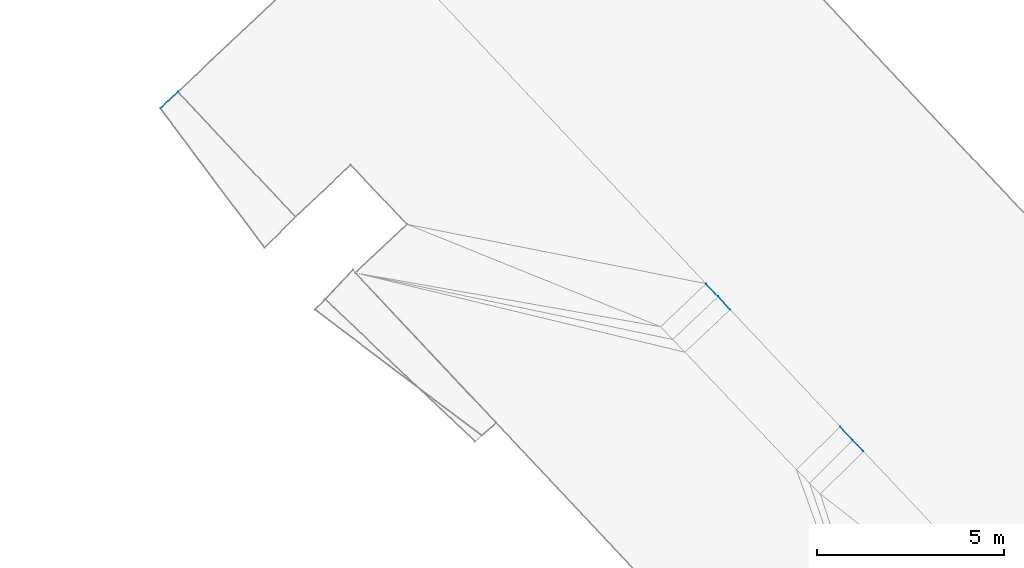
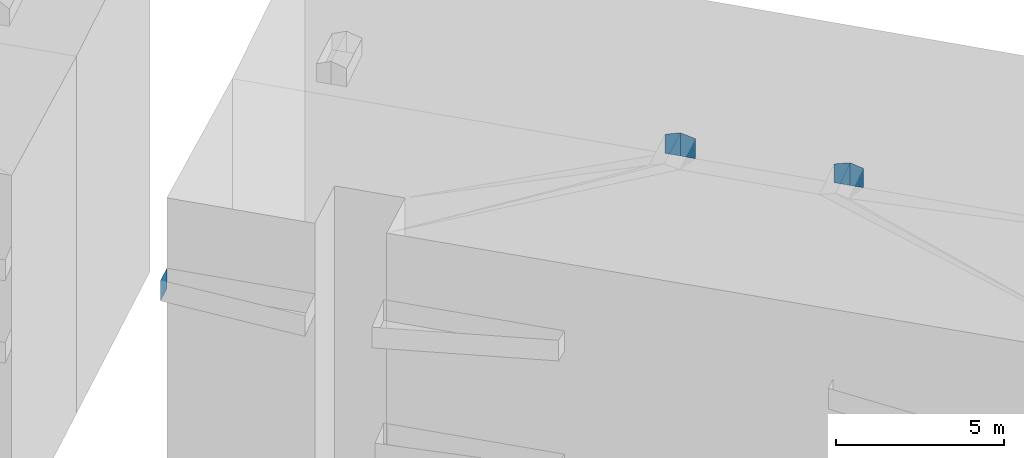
# Not in any storey, part 106 of 136: 6 walls.
"""IFC4 building model written with IfcOpenShell, lengths in metres."""

from ifc_helpers import new_model, entity, si_unit, converted_unit, origin, place, context, subcontext, project, spatial, face_set, surface_model, element, save


model = new_model("IFC4")

# Units and contexts
model_context = context("Model", 3, precision=1e-05, world=origin())
body_context = subcontext(model_context, "Body", "Model", "MODEL_VIEW")
ifc_project = project(units=[converted_unit("PLANEANGLEUNIT", "DEGREE", entity("IfcRatioMeasure", 0.0174532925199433), si_unit("PLANEANGLEUNIT", "RADIAN"), dimensions=[0, 0, 0, 0, 0, 0, 0]), si_unit("AREAUNIT", "SQUARE_METRE"), si_unit("LENGTHUNIT", "METRE")], contexts=[model_context])

# Site, building
site_placement = place(None, origin())
site = spatial("IfcSite", under=ifc_project, at=site_placement, Name="_site")
building_placement = place(site_placement, origin())
building = spatial("IfcBuilding", under=site, at=building_placement, Name="_building")

# Walls
wall_1_placement = place(building_placement, origin())
element("IfcWall", 1, at=wall_1_placement, inside=building, Name="Wall", PredefinedType="NOTDEFINED", context=body_context, shape_type="SurfaceModel", body=[
    surface_model("IfcFaceBasedSurfaceModel", [(18.92, 106.15, 47.72), (19.39, 106.59, 47.72), (19.39, 106.59, 48.47), (18.92, 106.15, 48.47)], [face_set([[[0, 1, 2, 3]]])]),
])
wall_2_placement = place(building_placement, origin())
element("IfcWall", 2, at=wall_2_placement, inside=building, Name="Wall", PredefinedType="NOTDEFINED", context=body_context, shape_type="SurfaceModel", body=[
    surface_model("IfcFaceBasedSurfaceModel", [(33.503, 101.462, 51.49), (33.83, 101.12, 51.64), (33.83, 101.12, 50.8), (33.503, 101.462, 50.8)], [face_set([[[0, 1, 2, 3]]])]),
])
wall_3_placement = place(building_placement, origin())
element("IfcWall", 3, at=wall_3_placement, inside=building, Name="Wall", PredefinedType="NOTDEFINED", context=body_context, shape_type="SurfaceModel", body=[
    surface_model("IfcFaceBasedSurfaceModel", [(33.83, 101.12, 51.64), (34.149, 100.77, 51.52), (34.149, 100.77, 50.8), (33.83, 101.12, 50.8)], [face_set([[[0, 1, 2, 3]]])]),
])
wall_4_placement = place(building_placement, origin())
element("IfcWall", 4, at=wall_4_placement, inside=building, Name="Wall", PredefinedType="NOTDEFINED", context=body_context, shape_type="SurfaceModel", body=[
    surface_model("IfcFaceBasedSurfaceModel", [(37.43, 97.28, 51.62), (37.711, 96.981, 51.5), (37.711, 96.981, 50.8), (37.43, 97.28, 50.8)], [face_set([[[0, 1, 2, 3]]])]),
])
wall_5_placement = place(building_placement, origin())
element("IfcWall", 5, at=wall_5_placement, inside=building, Name="Wall", PredefinedType="NOTDEFINED", context=body_context, shape_type="SurfaceModel", body=[
    surface_model("IfcFaceBasedSurfaceModel", [(37.09, 97.64, 51.48), (37.43, 97.28, 51.62), (37.43, 97.28, 50.8), (37.09, 97.64, 50.8)], [face_set([[[0, 1, 2, 3]]])]),
])
wall_6_placement = place(building_placement, origin())
element("IfcWall", 6, at=wall_6_placement, inside=building, Name="Wall", PredefinedType="NOTDEFINED", context=body_context, shape_type="SurfaceModel", body=[
    surface_model("IfcFaceBasedSurfaceModel", [(18.92, 106.15, 47.72), (19.39, 106.59, 47.72), (19.39, 106.59, 48.47), (18.92, 106.15, 48.47)], [face_set([[[0, 1, 2, 3]]])]),
])

save(model, "model.ifc")
